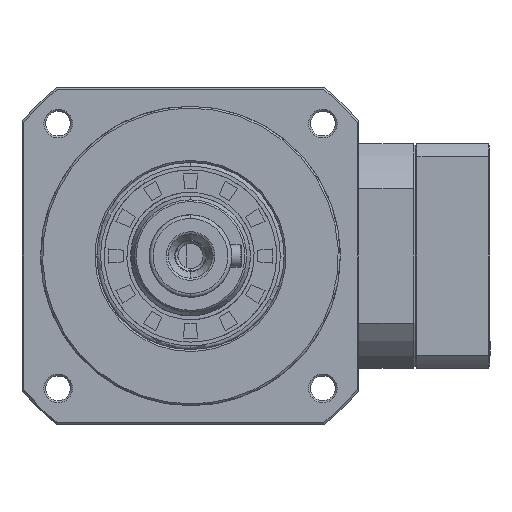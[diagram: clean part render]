
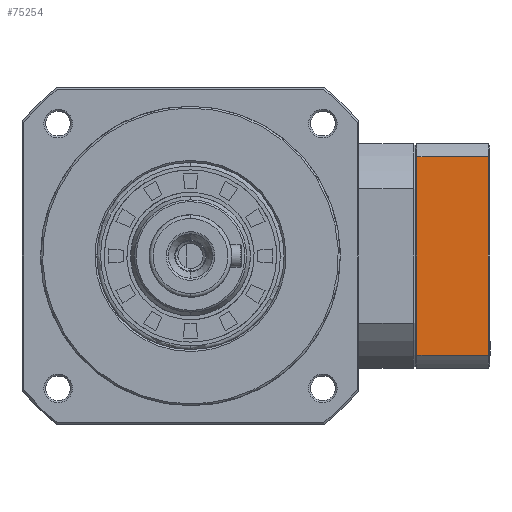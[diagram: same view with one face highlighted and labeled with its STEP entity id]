
A CAD part, left-side view. The second image highlights one B-rep face of the part: STEP entity #75254.
In plain terms, the highlighted planar face has unit normal (1, 0, 0).
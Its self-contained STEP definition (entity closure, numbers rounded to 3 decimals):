
#1754 = EDGE_LOOP ( 'NONE', ( #18106, #95836, #47979, #55651 ) ) ;
#3195 = DIRECTION ( 'NONE',  ( 0., 0., -1. ) ) ;
#10680 = VERTEX_POINT ( 'NONE', #32317 ) ;
#14867 = LINE ( 'NONE', #100278, #65010 ) ;
#15071 = DIRECTION ( 'NONE',  ( 1., 0., 0. ) ) ;
#18106 = ORIENTED_EDGE ( 'NONE', *, *, #51016, .F. ) ;
#20336 = CARTESIAN_POINT ( 'NONE',  ( 137., -79.5, 26.458 ) ) ;
#22766 = DIRECTION ( 'NONE',  ( 0., 0., -1. ) ) ;
#25474 = DIRECTION ( 'NONE',  ( 0., 0., 1. ) ) ;
#27616 = DIRECTION ( 'NONE',  ( 0., -1., 0. ) ) ;
#28379 = EDGE_CURVE ( 'NONE', #57121, #75196, #97360, .T. ) ;
#32317 = CARTESIAN_POINT ( 'NONE',  ( 137., -60.5, -26.458 ) ) ;
#38317 = CARTESIAN_POINT ( 'NONE',  ( 137., -70., -26.458 ) ) ;
#38896 = CARTESIAN_POINT ( 'NONE',  ( 137., -79.5, 26.458 ) ) ;
#46889 = VECTOR ( 'NONE', #62114, 1000. ) ;
#47979 = ORIENTED_EDGE ( 'NONE', *, *, #28379, .F. ) ;
#51016 = EDGE_CURVE ( 'NONE', #63056, #10680, #98904, .T. ) ;
#53927 = VECTOR ( 'NONE', #3195, 1000. ) ;
#55651 = ORIENTED_EDGE ( 'NONE', *, *, #95750, .T. ) ;
#57121 = VERTEX_POINT ( 'NONE', #83359 ) ;
#62114 = DIRECTION ( 'NONE',  ( 0., 1., 0. ) ) ;
#63056 = VERTEX_POINT ( 'NONE', #75001 ) ;
#65010 = VECTOR ( 'NONE', #27616, 1000. ) ;
#69484 = LINE ( 'NONE', #38317, #46889 ) ;
#71294 = FACE_OUTER_BOUND ( 'NONE', #1754, .T. ) ;
#75001 = CARTESIAN_POINT ( 'NONE',  ( 137., -60.5, 26.458 ) ) ;
#75196 = VERTEX_POINT ( 'NONE', #20336 ) ;
#75254 = ADVANCED_FACE ( 'NONE', ( #71294 ), #96107, .T. ) ;
#75347 = AXIS2_PLACEMENT_3D ( 'NONE', #38896, #15071, #22766 ) ;
#83359 = CARTESIAN_POINT ( 'NONE',  ( 137., -79.5, -26.458 ) ) ;
#87340 = VECTOR ( 'NONE', #25474, 1000. ) ;
#90523 = EDGE_CURVE ( 'NONE', #63056, #75196, #14867, .T. ) ;
#95750 = EDGE_CURVE ( 'NONE', #57121, #10680, #69484, .T. ) ;
#95836 = ORIENTED_EDGE ( 'NONE', *, *, #90523, .T. ) ;
#96107 = PLANE ( 'NONE',  #75347 ) ;
#97360 = LINE ( 'NONE', #102673, #87340 ) ;
#98904 = LINE ( 'NONE', #99240, #53927 ) ;
#99240 = CARTESIAN_POINT ( 'NONE',  ( 137., -60.5, 0. ) ) ;
#100278 = CARTESIAN_POINT ( 'NONE',  ( 137., -70., 26.458 ) ) ;
#102673 = CARTESIAN_POINT ( 'NONE',  ( 137., -79.5, 0. ) ) ;
